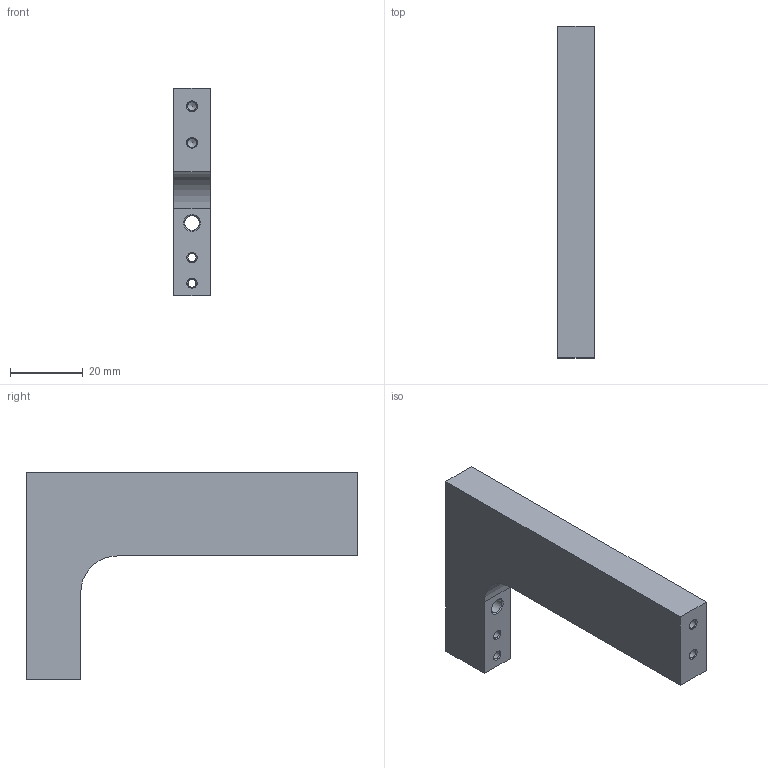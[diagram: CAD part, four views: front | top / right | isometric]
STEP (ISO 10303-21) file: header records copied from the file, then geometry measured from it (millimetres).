
FILE_DESCRIPTION(/* description */ (''),/* implementation_level */ '2;1');
FILE_NAME(/* name */ '2020TOMO-CRIMP.06.stp',/* time_stamp */ '2021-01-20T14:50:04+01:00',/* author */ (''),/* organization */ (''),/* preprocessor_version */ 'ST-DEVELOPER v16.7',/* originating_system */ 'SIEMENS PLM Software NX 1892',/* authorisation */ '');
FILE_SCHEMA (('AUTOMOTIVE_DESIGN { 1 0 10303 214 3 1 1 1 }'));
Length unit declared in the file: millimetre
Products named in the file (1): turc131041948isj
Bounding box: 10 x 91 x 57 mm (x, y, z)
Volume: 25567 mm3; surface area: 8828.8 mm2
Topology: 1 solids, 1 shells, 28 faces, 67 edges, 43 vertices
Faces by surface type: plane 10, cone 10, cylinder 8
Full cylindrical faces by diameter (mm): 2.2 x2, 2.5 x2, 4.05 x1, 5 x2
Entity records: 719 total; most frequent: DIRECTION 125, CARTESIAN_POINT 110, ORIENTED_EDGE 86, EDGE_LOOP 53, AXIS2_PLACEMENT_3D 53, FACE_BOUND 49, EDGE_CURVE 43, VERTEX_POINT 38
